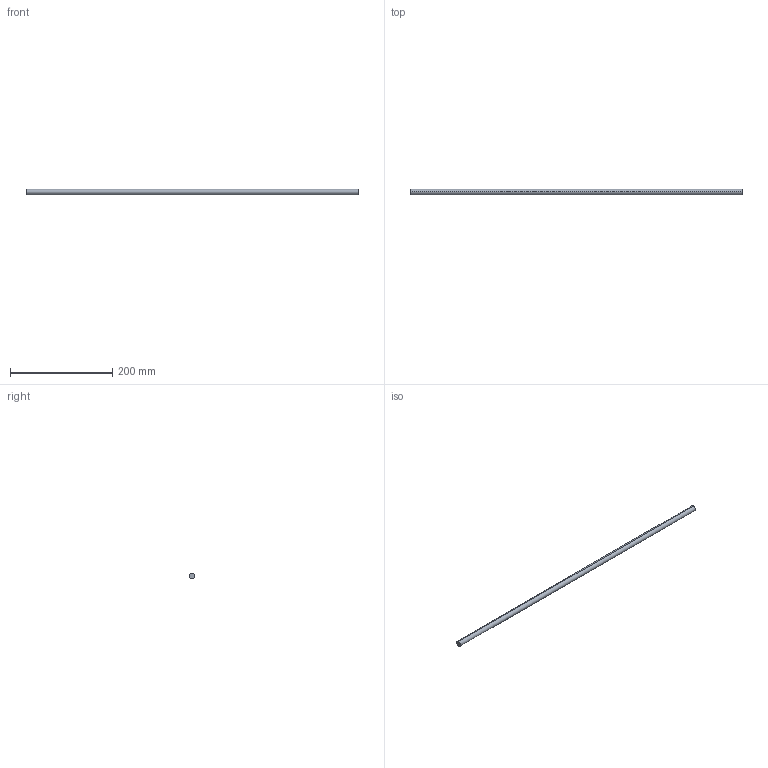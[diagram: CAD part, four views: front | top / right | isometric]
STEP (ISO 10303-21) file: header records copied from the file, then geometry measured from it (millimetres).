
FILE_DESCRIPTION (( 'STEP AP214' ), '1' );
FILE_NAME ('Querreling_2S-Rel_7102_KAB-750.step', '2010-09-22T15:05:57', ( 'grass' ), ( '' ), 'SwSTEP 2.0', 'SolidWorks 2010', '' );
FILE_SCHEMA (( 'AUTOMOTIVE_DESIGN' ));
Length unit declared in the file: millimetre
Products named in the file (1): Querreling_2S-Rel_7102_KAB-750
Bounding box: 649 x 11 x 11 mm (x, y, z)
Volume: 61676.5 mm3; surface area: 22617.9 mm2
Topology: 1 solids, 1 shells, 4 faces, 6 edges, 4 vertices
Faces by surface type: cylinder 2, plane 2
Entity records: 128 total; most frequent: DIRECTION 20, CARTESIAN_POINT 15, ORIENTED_EDGE 12, AXIS2_PLACEMENT_3D 9, EDGE_CURVE 6, VERTEX_POINT 4, ADVANCED_FACE 4, EDGE_LOOP 4
